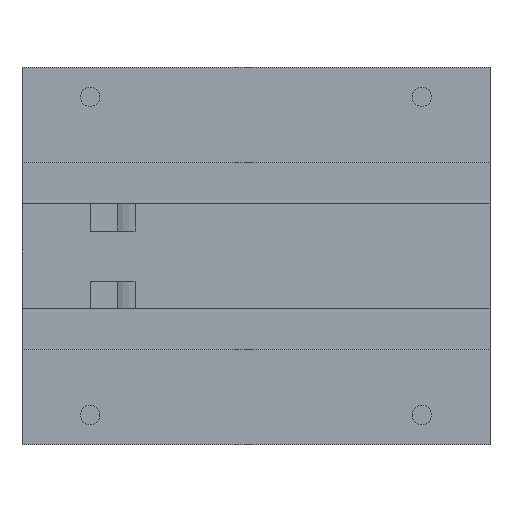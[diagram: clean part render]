
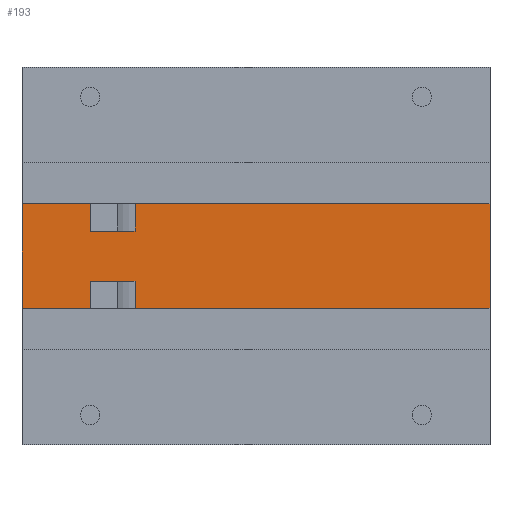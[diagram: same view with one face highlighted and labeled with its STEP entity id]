
A CAD part, top view. The second image highlights one B-rep face of the part: STEP entity #193.
In plain terms, the highlighted planar face has unit normal (0, 0, 1).
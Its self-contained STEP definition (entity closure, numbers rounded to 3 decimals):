
#42=CARTESIAN_POINT('',(24.873,53.,3.006));
#43=VERTEX_POINT('',#42);
#51=CARTESIAN_POINT('',(103.,53.,3.006));
#52=VERTEX_POINT('',#51);
#53=CARTESIAN_POINT('',(103.,53.,3.006));
#54=DIRECTION('',(-1.,0.,0.));
#55=VECTOR('',#54,78.127);
#56=LINE('',#53,#55);
#57=EDGE_CURVE('',#52,#43,#56,.T.);
#83=CARTESIAN_POINT('',(15.,30.,3.006));
#84=VERTEX_POINT('',#83);
#91=CARTESIAN_POINT('',(0.,30.,3.006));
#92=VERTEX_POINT('',#91);
#93=CARTESIAN_POINT('',(15.,30.,3.006));
#94=DIRECTION('',(-1.,0.,0.));
#95=VECTOR('',#94,15.);
#96=LINE('',#93,#95);
#97=EDGE_CURVE('',#84,#92,#96,.T.);
#108=CARTESIAN_POINT('',(103.,41.5,3.006));
#109=DIRECTION('',(0.,0.,1.));
#110=DIRECTION('',(1.,0.,0.));
#111=AXIS2_PLACEMENT_3D('',#108,#109,#110);
#112=PLANE('',#111);
#113=ORIENTED_EDGE('',*,*,#57,.T.);
#114=CARTESIAN_POINT('',(24.873,47.,3.006));
#115=VERTEX_POINT('',#114);
#116=CARTESIAN_POINT('',(24.873,53.,3.006));
#117=DIRECTION('',(0.,-1.,0.));
#118=VECTOR('',#117,6.);
#119=LINE('',#116,#118);
#120=EDGE_CURVE('',#43,#115,#119,.T.);
#121=ORIENTED_EDGE('',*,*,#120,.T.);
#122=CARTESIAN_POINT('',(15.,47.,3.006));
#123=VERTEX_POINT('',#122);
#124=CARTESIAN_POINT('',(24.873,47.,3.006));
#125=DIRECTION('',(-1.,0.,0.));
#126=VECTOR('',#125,9.873);
#127=LINE('',#124,#126);
#128=EDGE_CURVE('',#115,#123,#127,.T.);
#129=ORIENTED_EDGE('',*,*,#128,.T.);
#130=CARTESIAN_POINT('',(15.,53.,3.006));
#131=VERTEX_POINT('',#130);
#132=CARTESIAN_POINT('',(15.,47.,3.006));
#133=DIRECTION('',(-0.,1.,0.));
#134=VECTOR('',#133,6.);
#135=LINE('',#132,#134);
#136=EDGE_CURVE('',#123,#131,#135,.T.);
#137=ORIENTED_EDGE('',*,*,#136,.T.);
#138=CARTESIAN_POINT('',(0.,53.,3.006));
#139=VERTEX_POINT('',#138);
#140=CARTESIAN_POINT('',(15.,53.,3.006));
#141=DIRECTION('',(-1.,0.,0.));
#142=VECTOR('',#141,15.);
#143=LINE('',#140,#142);
#144=EDGE_CURVE('',#131,#139,#143,.T.);
#145=ORIENTED_EDGE('',*,*,#144,.T.);
#146=CARTESIAN_POINT('',(0.,30.,3.006));
#147=DIRECTION('',(0.,1.,0.));
#148=VECTOR('',#147,23.);
#149=LINE('',#146,#148);
#150=EDGE_CURVE('',#92,#139,#149,.T.);
#151=ORIENTED_EDGE('',*,*,#150,.F.);
#152=ORIENTED_EDGE('',*,*,#97,.F.);
#153=CARTESIAN_POINT('',(15.,36.,3.006));
#154=VERTEX_POINT('',#153);
#155=CARTESIAN_POINT('',(15.,30.,3.006));
#156=DIRECTION('',(0.,1.,0.));
#157=VECTOR('',#156,6.);
#158=LINE('',#155,#157);
#159=EDGE_CURVE('',#84,#154,#158,.T.);
#160=ORIENTED_EDGE('',*,*,#159,.T.);
#161=CARTESIAN_POINT('',(24.873,36.,3.006));
#162=VERTEX_POINT('',#161);
#163=CARTESIAN_POINT('',(15.,36.,3.006));
#164=DIRECTION('',(1.,0.,0.));
#165=VECTOR('',#164,9.873);
#166=LINE('',#163,#165);
#167=EDGE_CURVE('',#154,#162,#166,.T.);
#168=ORIENTED_EDGE('',*,*,#167,.T.);
#169=CARTESIAN_POINT('',(24.873,30.,3.006));
#170=VERTEX_POINT('',#169);
#171=CARTESIAN_POINT('',(24.873,36.,3.006));
#172=DIRECTION('',(0.,-1.,0.));
#173=VECTOR('',#172,6.);
#174=LINE('',#171,#173);
#175=EDGE_CURVE('',#162,#170,#174,.T.);
#176=ORIENTED_EDGE('',*,*,#175,.T.);
#177=CARTESIAN_POINT('',(103.,30.,3.006));
#178=VERTEX_POINT('',#177);
#179=CARTESIAN_POINT('',(103.,30.,3.006));
#180=DIRECTION('',(-1.,0.,0.));
#181=VECTOR('',#180,78.127);
#182=LINE('',#179,#181);
#183=EDGE_CURVE('',#178,#170,#182,.T.);
#184=ORIENTED_EDGE('',*,*,#183,.F.);
#185=CARTESIAN_POINT('',(103.,30.,3.006));
#186=DIRECTION('',(0.,1.,0.));
#187=VECTOR('',#186,23.);
#188=LINE('',#185,#187);
#189=EDGE_CURVE('',#178,#52,#188,.T.);
#190=ORIENTED_EDGE('',*,*,#189,.T.);
#191=EDGE_LOOP('',(#113,#121,#129,#137,#145,#151,#152,#160,#168,#176,#184,#190));
#192=FACE_BOUND('',#191,.T.);
#193=ADVANCED_FACE('',(#192),#112,.T.);
